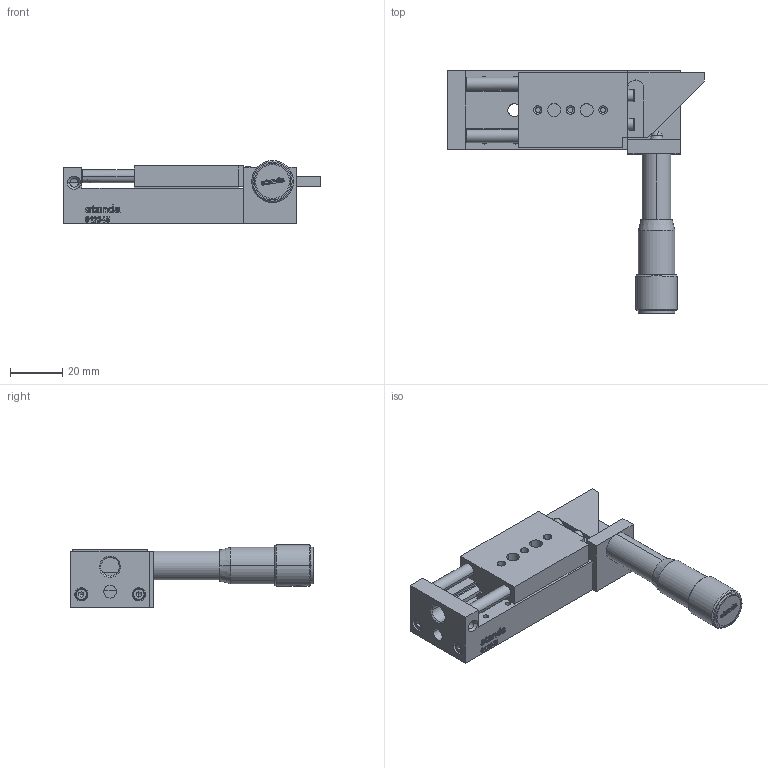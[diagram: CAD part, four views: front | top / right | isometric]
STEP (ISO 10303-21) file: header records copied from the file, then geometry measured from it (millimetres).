
FILE_DESCRIPTION (( 'STEP AP203' ), '1' );
FILE_NAME ('7T173-20T.STEP', '2008-02-21T14:35:13', ( 'STANDA' ), ( '' ), 'SwSTEP 2.0', 'SolidWorks 2003240', '' );
FILE_SCHEMA (( 'CONFIG_CONTROL_DESIGN' ));
Products named in the file (1): 7T173-20T
Bounding box: 98.3 x 92.74 x 24 mm (x, y, z)
Volume: 51310.4 mm3; surface area: 26411.9 mm2
Topology: 1 solids, 28 shells, 1008 faces, 2548 edges, 1653 vertices
Faces by surface type: plane 433, cylinder 246, bspline 229, cone 100
Entity records: 37692 total; most frequent: CARTESIAN_POINT 14890, ORIENTED_EDGE 5004, DIRECTION 4060, EDGE_CURVE 2502, VERTEX_POINT 1653, AXIS2_PLACEMENT_3D 1396, LINE 1268, VECTOR 1268
